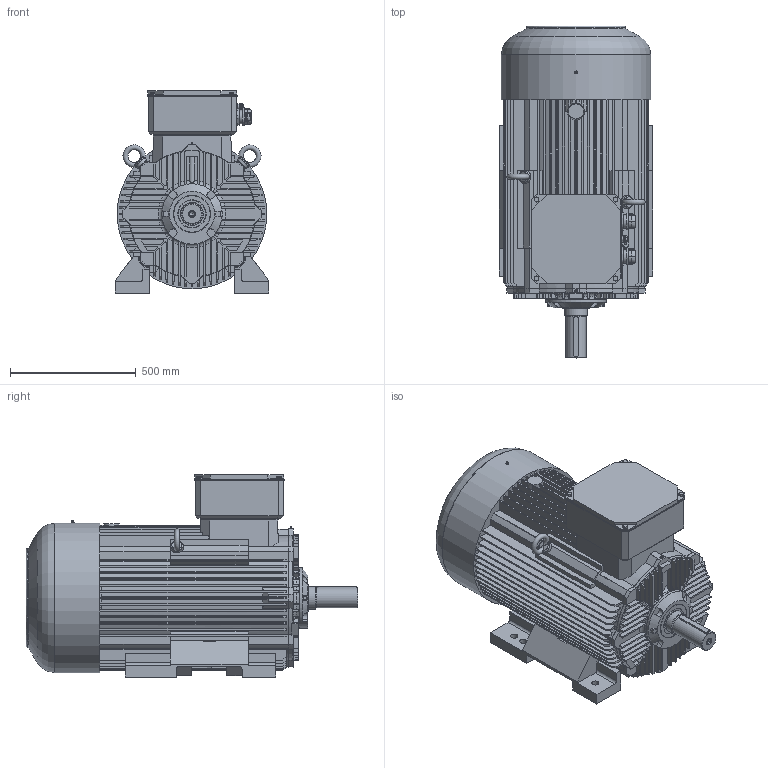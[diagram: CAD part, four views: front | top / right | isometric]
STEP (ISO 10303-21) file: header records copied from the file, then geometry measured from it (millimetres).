
FILE_DESCRIPTION(/* description */ ('Unknown','CAx-IF Rec.Pracs.---Representation and Presentation of Product Manufacturing Information (PMI)---4.0---2014-10-13','CAx-IF Rec.Pracs.---3D Tessellated Geometry---0.4---2014-09-14','2;1'),/* implementation_level */ '2;1');
FILE_NAME(/* name */ '4SIE315 M4B',/* time_stamp */ '2023-03-22T13:17:51+01:00',/* author */ ('Unknown'),/* organization */ ('Unknown'),/* preprocessor_version */ 'ST-DEVELOPER v16.7',/* originating_system */ 'DEX',/* authorisation */ $);
FILE_SCHEMA (('AP242_MANAGED_MODEL_BASED_3D_ENGINEERING_MIM_LF { 1 0 10303 442 20130219 1 4 }'));
Length unit declared in the file: millimetre
Products named in the file (1): 4SIE315 M4B
Bounding box: 610.02 x 1320 x 804.5 mm (x, y, z)
Volume: 284340809.8 mm3; surface area: 6875972.8 mm2
Topology: 6 solids, 21 shells, 1978 faces, 5629 edges, 3688 vertices
Faces by surface type: plane 1086, cylinder 581, torus 132, cone 107, sphere 56, bspline 16
Full cylindrical faces by diameter (mm): 1.6 x2, 5 x3, 6.595 x1, 8.698 x1, 9 x1, 9.306 x1, 10.106 x4, 11 x1, 13 x1, 13.835 x1, 16.63 x4, 17 x1, 17.294 x1, 18 x1, 19.525 x1, 20 x2, 21 x1, 21.546 x1, 24 x4, 27 x1, 28 x6, 38.657 x2, 42.657 x2, 44 x2, 47 x2, 50 x2, 54 x2, 75 x2, 79.999 x1, 89.5 x1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
Entity records: 77447 total; most frequent: CARTESIAN_POINT 14939, ORIENTED_EDGE 10594, DIRECTION 10153, EDGE_CURVE 5297, AXIS2_PLACEMENT_3D 3626, VERTEX_POINT 3539, LINE 2901, VECTOR 2901
